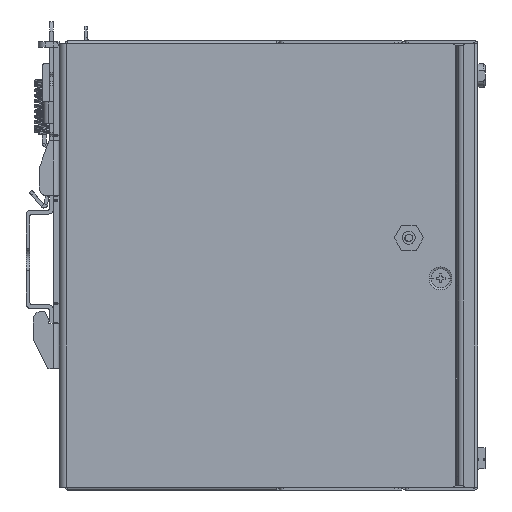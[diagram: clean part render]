
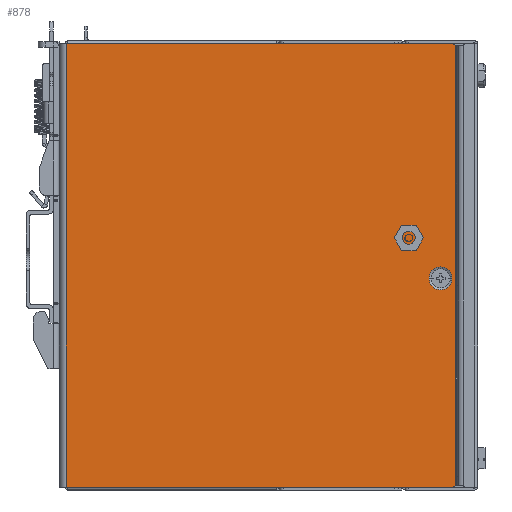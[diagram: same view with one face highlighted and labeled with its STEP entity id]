
A CAD part, front view. The second image highlights one B-rep face of the part: STEP entity #878.
In plain terms, the highlighted planar face has unit normal (0, -1, 0).
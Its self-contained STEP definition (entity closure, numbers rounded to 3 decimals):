
#1=CARTESIAN_POINT('',(106.7,0.,-1.));
#2=DIRECTION('',(0.,1.,0.));
#3=DIRECTION('',(0.,0.,1.));
#4=AXIS2_PLACEMENT_3D('',#1,#2,#3);
#6=DIRECTION('',(0.,0.,-1.));
#7=VECTOR('',#6,120.);
#8=CARTESIAN_POINT('',(107.7,0.,-1.));
#9=LINE('',#8,#7);
#10=CARTESIAN_POINT('',(106.7,0.,-121.));
#11=DIRECTION('',(0.,1.,0.));
#12=DIRECTION('',(1.,0.,0.));
#13=AXIS2_PLACEMENT_3D('',#10,#11,#12);
#15=DIRECTION('',(-1.,0.,0.));
#16=VECTOR('',#15,106.2);
#17=CARTESIAN_POINT('',(106.7,0.,-122.));
#18=LINE('',#17,#16);
#19=DIRECTION('',(1.,0.,0.));
#20=VECTOR('',#19,106.2);
#21=CARTESIAN_POINT('',(0.5,0.,0.));
#22=LINE('',#21,#20);
#23=CARTESIAN_POINT('',(103.464,0.,-64.55));
#24=DIRECTION('',(0.,-1.,0.));
#25=DIRECTION('',(-1.,0.,0.));
#26=AXIS2_PLACEMENT_3D('',#23,#24,#25);
#28=CARTESIAN_POINT('',(103.464,0.,-64.55));
#29=DIRECTION('',(0.,-1.,0.));
#30=DIRECTION('',(0.,0.,-1.));
#31=AXIS2_PLACEMENT_3D('',#28,#29,#30);
#33=CARTESIAN_POINT('',(103.464,0.,-64.55));
#34=DIRECTION('',(0.,-1.,0.));
#35=DIRECTION('',(1.,0.,0.));
#36=AXIS2_PLACEMENT_3D('',#33,#34,#35);
#38=CARTESIAN_POINT('',(103.464,0.,-64.55));
#39=DIRECTION('',(0.,-1.,0.));
#40=DIRECTION('',(0.,0.,1.));
#41=AXIS2_PLACEMENT_3D('',#38,#39,#40);
#277=DIRECTION('',(0.,0.,-1.));
#278=VECTOR('',#277,122.);
#279=CARTESIAN_POINT('',(0.5,0.,0.));
#280=LINE('',#279,#278);
#665=CARTESIAN_POINT('',(106.7,0.,0.));
#666=CARTESIAN_POINT('',(107.7,0.,-1.));
#667=VERTEX_POINT('',#665);
#668=VERTEX_POINT('',#666);
#669=CARTESIAN_POINT('',(107.7,0.,-121.));
#670=VERTEX_POINT('',#669);
#671=CARTESIAN_POINT('',(106.7,0.,-122.));
#672=VERTEX_POINT('',#671);
#673=CARTESIAN_POINT('',(0.5,0.,-122.));
#674=VERTEX_POINT('',#673);
#675=CARTESIAN_POINT('',(0.5,0.,0.));
#676=VERTEX_POINT('',#675);
#677=CARTESIAN_POINT('',(100.314,0.,-64.55));
#678=CARTESIAN_POINT('',(103.464,0.,-67.7));
#679=VERTEX_POINT('',#677);
#680=VERTEX_POINT('',#678);
#681=CARTESIAN_POINT('',(106.614,0.,-64.55));
#682=VERTEX_POINT('',#681);
#683=CARTESIAN_POINT('',(103.464,0.,-61.4));
#684=VERTEX_POINT('',#683);
#849=CARTESIAN_POINT('',(0.,0.,0.));
#850=DIRECTION('',(0.,1.,0.));
#851=DIRECTION('',(1.,0.,0.));
#852=AXIS2_PLACEMENT_3D('',#849,#850,#851);
#853=PLANE('',#852);
#855=ORIENTED_EDGE('',*,*,#854,.T.);
#857=ORIENTED_EDGE('',*,*,#856,.T.);
#859=ORIENTED_EDGE('',*,*,#858,.T.);
#861=ORIENTED_EDGE('',*,*,#860,.T.);
#863=ORIENTED_EDGE('',*,*,#862,.F.);
#865=ORIENTED_EDGE('',*,*,#864,.T.);
#866=EDGE_LOOP('',(#855,#857,#859,#861,#863,#865));
#867=FACE_OUTER_BOUND('',#866,.F.);
#869=ORIENTED_EDGE('',*,*,#868,.T.);
#871=ORIENTED_EDGE('',*,*,#870,.T.);
#873=ORIENTED_EDGE('',*,*,#872,.T.);
#875=ORIENTED_EDGE('',*,*,#874,.T.);
#876=EDGE_LOOP('',(#869,#871,#873,#875));
#877=FACE_BOUND('',#876,.F.);
#878=ADVANCED_FACE('',(#867,#877),#853,.F.);
#5=CIRCLE('',#4,1.);
#14=CIRCLE('',#13,1.);
#27=CIRCLE('',#26,3.15);
#32=CIRCLE('',#31,3.15);
#37=CIRCLE('',#36,3.15);
#42=CIRCLE('',#41,3.15);
#854=EDGE_CURVE('',#667,#668,#5,.T.);
#856=EDGE_CURVE('',#668,#670,#9,.T.);
#858=EDGE_CURVE('',#670,#672,#14,.T.);
#860=EDGE_CURVE('',#672,#674,#18,.T.);
#862=EDGE_CURVE('',#676,#674,#280,.T.);
#864=EDGE_CURVE('',#676,#667,#22,.T.);
#868=EDGE_CURVE('',#679,#680,#27,.T.);
#870=EDGE_CURVE('',#680,#682,#32,.T.);
#872=EDGE_CURVE('',#682,#684,#37,.T.);
#874=EDGE_CURVE('',#684,#679,#42,.T.);
